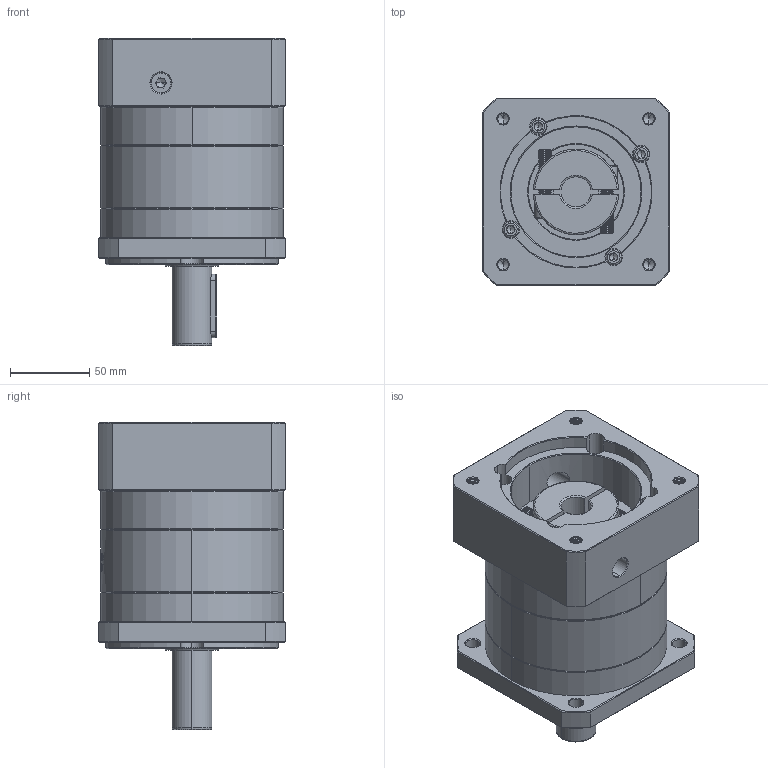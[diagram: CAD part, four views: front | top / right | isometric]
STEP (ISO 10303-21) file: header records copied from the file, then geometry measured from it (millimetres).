
FILE_DESCRIPTION (( 'STEP AP214' ), '1' );
FILE_NAME ('ZF120A-D25-L1-P2-19-95-130-M8.step', '2023-08-27T04:38:27', ( '' ), ( '' ), 'SwSTEP 2.0', 'SolidWorks 2016', '' );
FILE_SCHEMA (( 'AUTOMOTIVE_DESIGN' ));
Length unit declared in the file: millimetre
Products named in the file (1): ZF120A-D25-L1-P2-19-95-130-M8
Bounding box: 118 x 118 x 193.5 mm (x, y, z)
Volume: 1462199.9 mm3; surface area: 165875.4 mm2
Topology: 6 solids, 6 shells, 2226 faces, 5912 edges, 3787 vertices
Faces by surface type: plane 1034, cylinder 425, bspline 419, cone 328, torus 20
Entity records: 123018 total; most frequent: CARTESIAN_POINT 48660, ORIENTED_EDGE 11764, DIRECTION 8527, EDGE_CURVE 5882, VERTEX_POINT 3787, VECTOR 3099, LINE 3099, AXIS2_PLACEMENT_3D 2714
